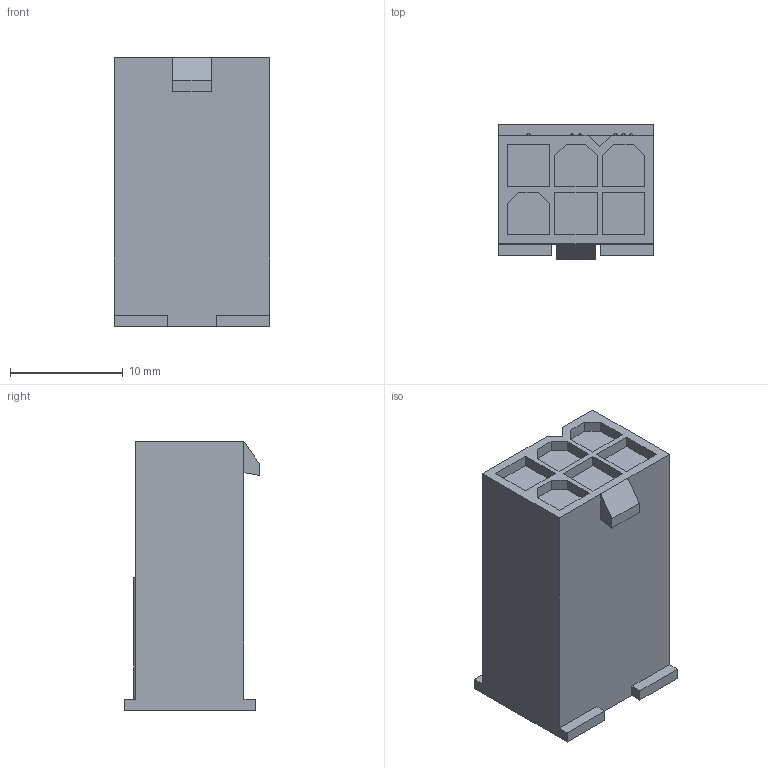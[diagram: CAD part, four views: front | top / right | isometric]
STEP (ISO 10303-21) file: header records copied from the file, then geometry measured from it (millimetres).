
FILE_DESCRIPTION((''),'2;1');
FILE_NAME('C-1586017-6','2010-12-15T',('workeradm'),('Tyco Electronics Ltd.'),'PRO/ENGINEER BY PARAMETRIC TECHNOLOGY CORPORATION, 2009300','PRO/ENGINEER BY PARAMETRIC TECHNOLOGY CORPORATION, 2009300','');
FILE_SCHEMA(('AUTOMOTIVE_DESIGN { 1 0 10303 214 1 1 1 1 }'));
Length unit declared in the file: millimetre
Products named in the file (1): C-1586017-6
Bounding box: 13.8 x 12 x 23.8 mm (x, y, z)
Volume: 3018.6 mm3; surface area: 1636.1 mm2
Topology: 1 solids, 1 shells, 150 faces, 394 edges, 262 vertices
Faces by surface type: plane 144, cylinder 6
Entity records: 4805 total; most frequent: CARTESIAN_POINT 808, ORIENTED_EDGE 788, DIRECTION 706, EDGE_CURVE 394, VECTOR 382, LINE 382, VERTEX_POINT 262, EDGE_LOOP 166
